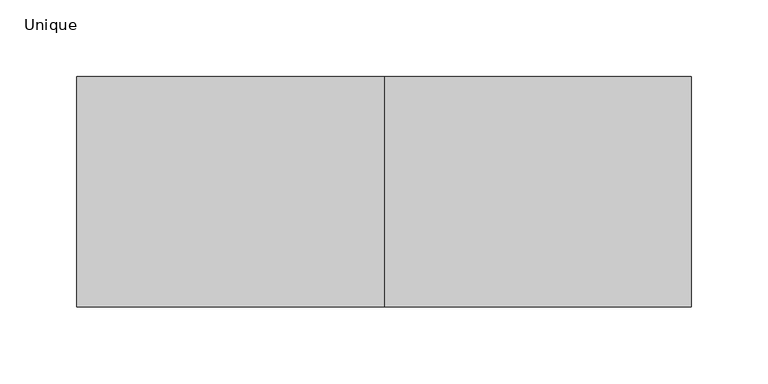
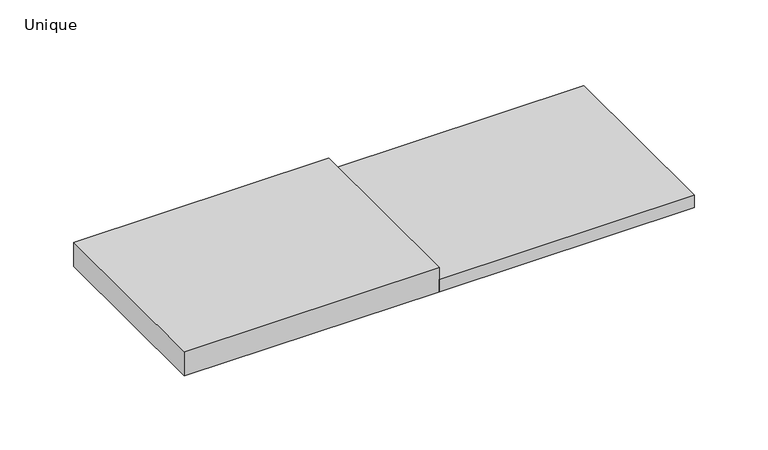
"""IFC4 building model written with IfcOpenShell, lengths in millimetres: furniture geometry, Pólis Square Panel : Unique."""

from ifc_helpers import new_model, si_unit, origin, origin_with_axes, place, context, project, spatial, polyline, outline, extrude, source, transform, mapped, element, save


def unique_59bb0729(model_context):
    return source(origin(), model_context, "Body", "SweptSolid", [
        extrude(outline(polyline([(200.0, -200.0), (0.0, -200.0), (0.0, -50.0), (200.0, -50.0), (200.0, -200.0)])), origin_with_axes(), (0.0, 0.0, 1.0), 10.0),
        extrude(outline(polyline([(0.0, -200.0), (-200.0, -200.0), (-200.0, -50.0), (0.0, -50.0), (0.0, -200.0)])), origin_with_axes(), (0.0, 0.0, 1.0), 20.0),
    ])


if __name__ == "__main__":
    model = new_model("IFC4")
    model_context = context("Model", 3, world=origin())
    ifc_project = project(units=[si_unit("LENGTHUNIT", "METRE", prefix="MILLI")], contexts=[model_context])
    site = spatial("IfcSite", under=ifc_project)
    building = spatial("IfcBuilding", under=site)
    placement = place(None, origin())
    unique_shape = unique_59bb0729(model_context)
    element("IfcFurniture", 1, ObjectType="Pólis Square Panel : Unique", at=placement, inside=building, context=model_context, shape_type="MappedRepresentation", body=[
        mapped(unique_shape, transform((0.0, 0.0, 0.0), x_axis=(1.0, 0.0, 0.0), y_axis=(0.0, 1.0, 0.0), z_axis=(0.0, 0.0, 1.0))),
    ])
    save(model, "model.ifc")
